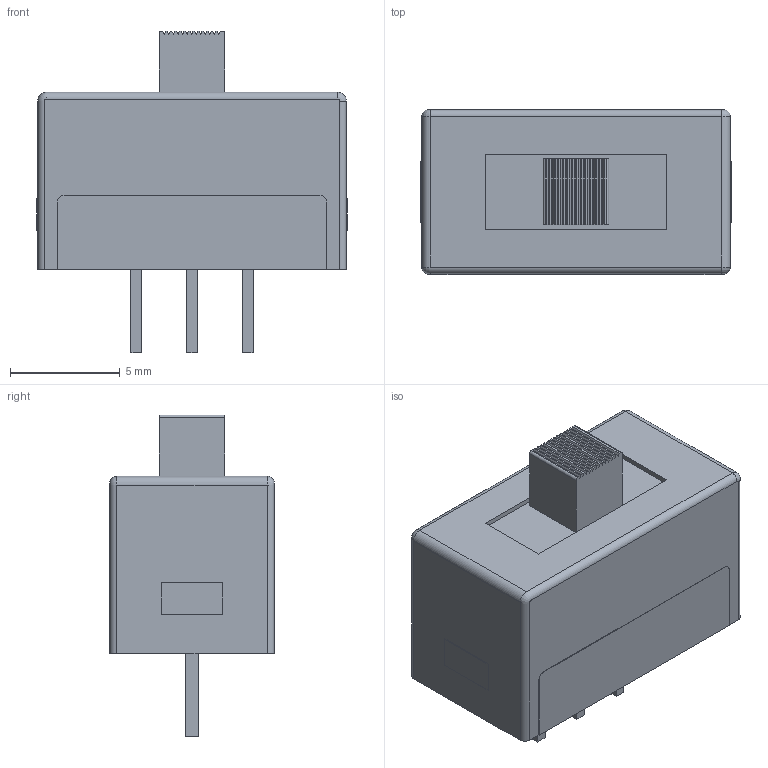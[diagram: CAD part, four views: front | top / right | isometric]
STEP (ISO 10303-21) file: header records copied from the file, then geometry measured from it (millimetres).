
FILE_DESCRIPTION(('FreeCAD Model'),'2;1');
FILE_NAME('Open CASCADE Shape Model','2024-03-23T00:53:38',( 'kicad StepUp'),('ksu MCAD'),'Open CASCADE STEP processor 7.6', 'FreeCAD','Unknown');
FILE_SCHEMA(('AUTOMOTIVE_DESIGN { 1 0 10303 214 1 1 1 1 }'));
Length unit declared in the file: millimetre
Products named in the file (1): 25136NAH
Bounding box: 14.18 x 7.54 x 14.7 mm (x, y, z)
Volume: 882.1 mm3; surface area: 627.5 mm2
Topology: 1 solids, 1 shells, 106 faces, 287 edges, 186 vertices
Faces by surface type: plane 88, cylinder 14, revolution 4
Entity records: 4051 total; most frequent: CARTESIAN_POINT 604, ORIENTED_EDGE 566, DIRECTION 525, EDGE_CURVE 283, LINE 251, VECTOR 251, VERTEX_POINT 186, AXIS2_PLACEMENT_3D 135
